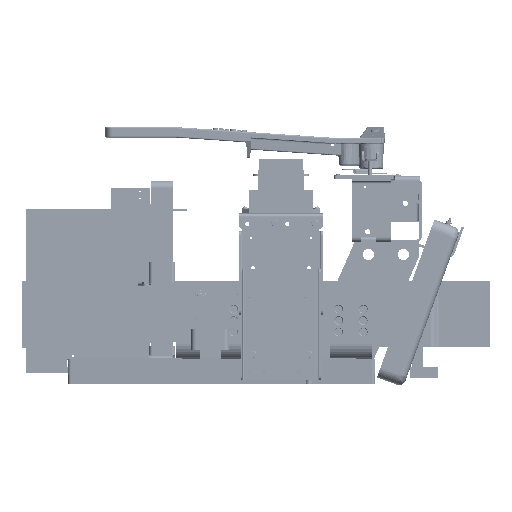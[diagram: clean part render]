
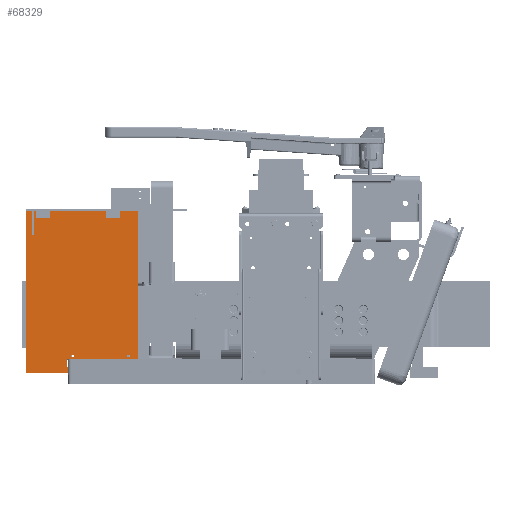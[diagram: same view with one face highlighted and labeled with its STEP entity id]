
A CAD part, left-side view. The second image highlights one B-rep face of the part: STEP entity #68329.
In plain terms, the highlighted planar face has unit normal (-1, 0, 0) as drawn and (0, 0, -1) by its records, which use the part's own axes.
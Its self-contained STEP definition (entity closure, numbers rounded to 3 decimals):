
#3610=FACE_BOUND('',#14665,.T.);
#3611=FACE_BOUND('',#14666,.T.);
#3612=FACE_BOUND('',#14667,.T.);
#3613=FACE_BOUND('',#14668,.T.);
#5700=CIRCLE('',#75586,0.097);
#5702=CIRCLE('',#75589,0.097);
#5704=CIRCLE('',#75592,0.097);
#5706=CIRCLE('',#75595,0.097);
#10301=FACE_OUTER_BOUND('',#14664,.T.);
#14664=EDGE_LOOP('',(#53413,#53414,#53415,#53416,#53417,#53418,#53419,#53420,
#53421,#53422,#53423,#53424));
#14665=EDGE_LOOP('',(#53425));
#14666=EDGE_LOOP('',(#53426));
#14667=EDGE_LOOP('',(#53427));
#14668=EDGE_LOOP('',(#53428));
#19843=LINE('',#110865,#25492);
#19847=LINE('',#110873,#25496);
#19850=LINE('',#110879,#25499);
#19853=LINE('',#110885,#25502);
#19856=LINE('',#110891,#25505);
#19859=LINE('',#110897,#25508);
#19862=LINE('',#110903,#25511);
#19865=LINE('',#110909,#25514);
#19868=LINE('',#110915,#25517);
#19871=LINE('',#110921,#25520);
#19874=LINE('',#110927,#25523);
#19877=LINE('',#110932,#25526);
#25492=VECTOR('',#88898,0.394);
#25496=VECTOR('',#88904,0.394);
#25499=VECTOR('',#88909,0.394);
#25502=VECTOR('',#88914,0.394);
#25505=VECTOR('',#88919,0.394);
#25508=VECTOR('',#88924,0.394);
#25511=VECTOR('',#88929,0.394);
#25514=VECTOR('',#88934,0.394);
#25517=VECTOR('',#88939,0.394);
#25520=VECTOR('',#88944,0.394);
#25523=VECTOR('',#88949,0.394);
#25526=VECTOR('',#88954,0.394);
#31499=VERTEX_POINT('',#110839);
#31501=VERTEX_POINT('',#110845);
#31503=VERTEX_POINT('',#110851);
#31505=VERTEX_POINT('',#110857);
#31507=VERTEX_POINT('',#110863);
#31508=VERTEX_POINT('',#110864);
#31511=VERTEX_POINT('',#110872);
#31513=VERTEX_POINT('',#110878);
#31515=VERTEX_POINT('',#110884);
#31517=VERTEX_POINT('',#110890);
#31519=VERTEX_POINT('',#110896);
#31521=VERTEX_POINT('',#110902);
#31523=VERTEX_POINT('',#110908);
#31525=VERTEX_POINT('',#110914);
#31527=VERTEX_POINT('',#110920);
#31529=VERTEX_POINT('',#110926);
#39276=EDGE_CURVE('',#31499,#31499,#5700,.T.);
#39279=EDGE_CURVE('',#31501,#31501,#5702,.T.);
#39282=EDGE_CURVE('',#31503,#31503,#5704,.T.);
#39285=EDGE_CURVE('',#31505,#31505,#5706,.T.);
#39288=EDGE_CURVE('',#31507,#31508,#19843,.T.);
#39292=EDGE_CURVE('',#31511,#31507,#19847,.T.);
#39295=EDGE_CURVE('',#31513,#31511,#19850,.T.);
#39298=EDGE_CURVE('',#31515,#31513,#19853,.T.);
#39301=EDGE_CURVE('',#31517,#31515,#19856,.T.);
#39304=EDGE_CURVE('',#31519,#31517,#19859,.T.);
#39307=EDGE_CURVE('',#31521,#31519,#19862,.T.);
#39310=EDGE_CURVE('',#31523,#31521,#19865,.T.);
#39313=EDGE_CURVE('',#31525,#31523,#19868,.T.);
#39316=EDGE_CURVE('',#31527,#31525,#19871,.T.);
#39319=EDGE_CURVE('',#31529,#31527,#19874,.T.);
#39322=EDGE_CURVE('',#31508,#31529,#19877,.T.);
#53413=ORIENTED_EDGE('',*,*,#39322,.F.);
#53414=ORIENTED_EDGE('',*,*,#39288,.F.);
#53415=ORIENTED_EDGE('',*,*,#39292,.F.);
#53416=ORIENTED_EDGE('',*,*,#39295,.F.);
#53417=ORIENTED_EDGE('',*,*,#39298,.F.);
#53418=ORIENTED_EDGE('',*,*,#39301,.F.);
#53419=ORIENTED_EDGE('',*,*,#39304,.F.);
#53420=ORIENTED_EDGE('',*,*,#39307,.F.);
#53421=ORIENTED_EDGE('',*,*,#39310,.F.);
#53422=ORIENTED_EDGE('',*,*,#39313,.F.);
#53423=ORIENTED_EDGE('',*,*,#39316,.F.);
#53424=ORIENTED_EDGE('',*,*,#39319,.F.);
#53425=ORIENTED_EDGE('',*,*,#39276,.T.);
#53426=ORIENTED_EDGE('',*,*,#39279,.T.);
#53427=ORIENTED_EDGE('',*,*,#39282,.T.);
#53428=ORIENTED_EDGE('',*,*,#39285,.T.);
#65508=PLANE('',#75610);
#68329=ADVANCED_FACE('',(#10301,#3610,#3611,#3612,#3613),#65508,.F.);
#75586=AXIS2_PLACEMENT_3D('',#110840,#88870,#88871);
#75589=AXIS2_PLACEMENT_3D('',#110846,#88877,#88878);
#75592=AXIS2_PLACEMENT_3D('',#110852,#88884,#88885);
#75595=AXIS2_PLACEMENT_3D('',#110858,#88891,#88892);
#75610=AXIS2_PLACEMENT_3D('',#110935,#88958,#88959);
#88870=DIRECTION('center_axis',(0.,0.,1.));
#88871=DIRECTION('ref_axis',(-1.,0.,0.));
#88877=DIRECTION('center_axis',(0.,0.,1.));
#88878=DIRECTION('ref_axis',(-1.,0.,0.));
#88884=DIRECTION('center_axis',(0.,0.,1.));
#88885=DIRECTION('ref_axis',(-1.,0.,0.));
#88891=DIRECTION('center_axis',(0.,0.,1.));
#88892=DIRECTION('ref_axis',(-1.,0.,0.));
#88898=DIRECTION('',(1.,0.,0.));
#88904=DIRECTION('',(0.,1.,0.));
#88909=DIRECTION('',(1.,0.,0.));
#88914=DIRECTION('',(0.,-1.,0.));
#88919=DIRECTION('',(-1.,0.,0.));
#88924=DIRECTION('',(0.,-1.,0.));
#88929=DIRECTION('',(1.,0.,0.));
#88934=DIRECTION('',(0.,-1.,0.));
#88939=DIRECTION('',(-1.,0.,0.));
#88944=DIRECTION('',(0.,1.,0.));
#88949=DIRECTION('',(1.,0.,0.));
#88954=DIRECTION('',(0.,-1.,0.));
#88958=DIRECTION('center_axis',(0.,0.,1.));
#88959=DIRECTION('ref_axis',(1.,0.,0.));
#110839=CARTESIAN_POINT('',(0.347,2.,0.));
#110840=CARTESIAN_POINT('Origin',(0.25,2.,0.));
#110845=CARTESIAN_POINT('',(0.347,7.,0.));
#110846=CARTESIAN_POINT('Origin',(0.25,7.,0.));
#110851=CARTESIAN_POINT('',(10.472,0.688,0.));
#110852=CARTESIAN_POINT('Origin',(10.375,0.688,0.));
#110857=CARTESIAN_POINT('',(10.472,4.688,0.));
#110858=CARTESIAN_POINT('Origin',(10.375,4.688,0.));
#110863=CARTESIAN_POINT('',(10.625,5.094,0.));
#110864=CARTESIAN_POINT('',(11.156,5.094,0.));
#110865=CARTESIAN_POINT('',(10.625,5.094,0.));
#110872=CARTESIAN_POINT('',(10.625,0.,0.));
#110873=CARTESIAN_POINT('',(10.625,0.,0.));
#110878=CARTESIAN_POINT('',(0.,0.,0.));
#110879=CARTESIAN_POINT('',(0.,0.,0.));
#110884=CARTESIAN_POINT('',(0.,7.422,0.));
#110885=CARTESIAN_POINT('',(0.,7.422,0.));
#110890=CARTESIAN_POINT('',(1.75,7.422,0.));
#110891=CARTESIAN_POINT('',(1.75,7.422,0.));
#110896=CARTESIAN_POINT('',(1.75,7.578,0.));
#110897=CARTESIAN_POINT('',(1.75,7.578,0.));
#110902=CARTESIAN_POINT('',(0.,7.578,0.));
#110903=CARTESIAN_POINT('',(0.,7.578,0.));
#110908=CARTESIAN_POINT('',(0.,8.,0.));
#110909=CARTESIAN_POINT('',(0.,8.,0.));
#110914=CARTESIAN_POINT('',(11.625,8.,0.));
#110915=CARTESIAN_POINT('',(11.625,8.,0.));
#110920=CARTESIAN_POINT('',(11.625,4.719,0.));
#110921=CARTESIAN_POINT('',(11.625,4.719,0.));
#110926=CARTESIAN_POINT('',(11.156,4.719,0.));
#110927=CARTESIAN_POINT('',(11.156,4.719,0.));
#110932=CARTESIAN_POINT('',(11.156,5.094,0.));
#110935=CARTESIAN_POINT('Origin',(5.401,4.41,0.));
